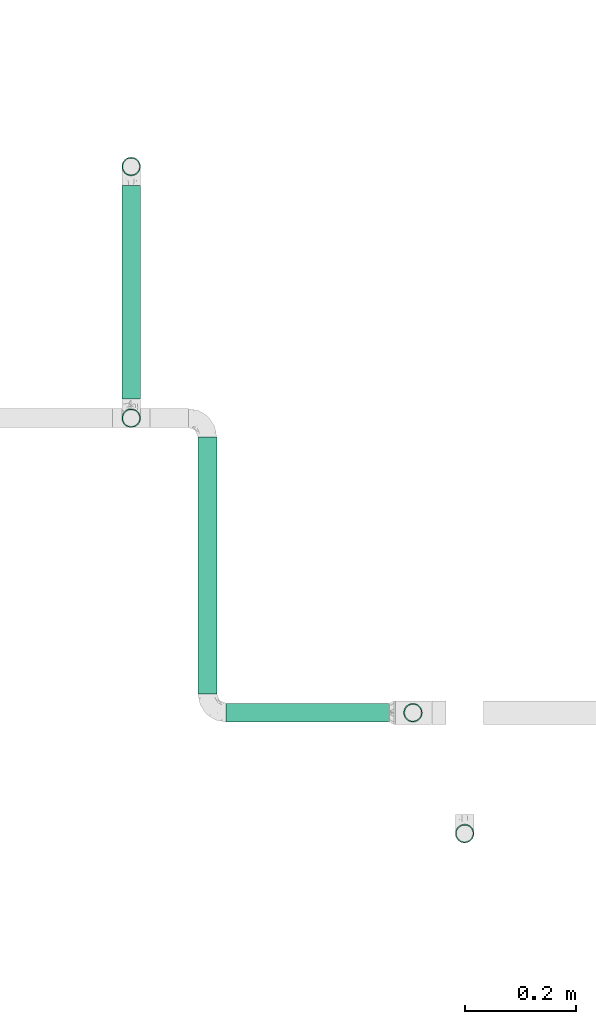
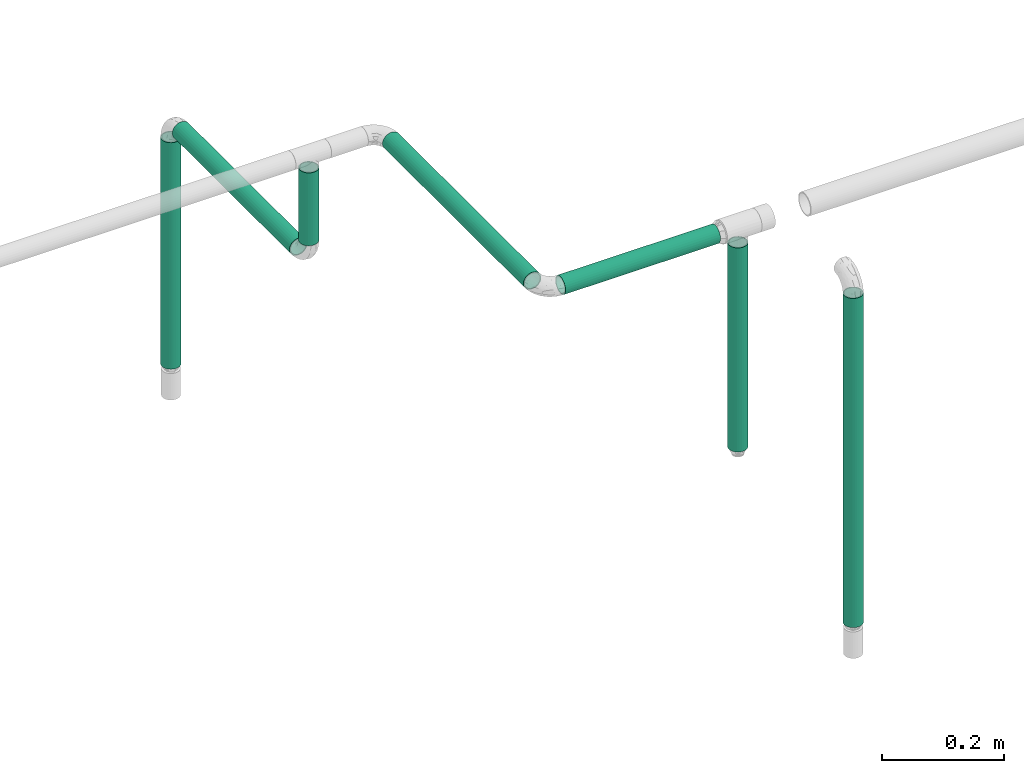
# One storey, part 13 of 94: 7 flow segments.
"""IFC2X3 building model written with IfcOpenShell, lengths in millimetres."""

from ifc_helpers import new_model, entity, si_unit, converted_unit, derived_unit, direction, frame, origin_with_axes, origin_2d_with_axis, place, context, subcontext, project, spatial, hollow_circle, extrude, source, transform, mapped, type_object, element, save


model = new_model("IFC2X3")

# Units and contexts
model_context = context("Model", 3, precision=0.01, world=frame((0.0, 4.29681676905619e-09, 0.0)), true_north=direction((4.01073788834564e-13, 1.0)))
plan_context = context("Plan", 3, precision=0.01, world=frame((0.0, 4.29681676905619e-09, 0.0)), true_north=direction((4.01073788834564e-13, 1.0)))
body_context = subcontext(model_context, "Body", "Model", "MODEL_VIEW")
ifc_project = project(units=[converted_unit("PLANEANGLEUNIT", "DEGREE", entity("IfcPositiveLengthMeasure", 0.0174532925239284), si_unit("PLANEANGLEUNIT", "RADIAN"), dimensions=[0, 0, 0, 0, 0, 0, 0]), si_unit("AREAUNIT", "SQUARE_METRE"), si_unit("LENGTHUNIT", "METRE", prefix="MILLI"), si_unit("MASSUNIT", "GRAM", prefix="KILO"), si_unit("POWERUNIT", "WATT"), si_unit("PRESSUREUNIT", "PASCAL", prefix="KILO"), si_unit("FORCEUNIT", "NEWTON", prefix="KILO"), si_unit("ELECTRICVOLTAGEUNIT", "VOLT"), si_unit("ELECTRICCURRENTUNIT", "AMPERE"), si_unit("THERMODYNAMICTEMPERATUREUNIT", "DEGREE_CELSIUS"), si_unit("TIMEUNIT", "SECOND"), si_unit("VOLUMEUNIT", "CUBIC_METRE"), derived_unit("LINEARVELOCITYUNIT", [(si_unit("LENGTHUNIT", "METRE"), 1), (si_unit("TIMEUNIT", "SECOND"), -1)]), derived_unit("VOLUMETRICFLOWRATEUNIT", [(si_unit("VOLUMEUNIT", "CUBIC_METRE"), 1), (si_unit("TIMEUNIT", "SECOND"), -1)]), derived_unit("THERMALTRANSMITTANCEUNIT", [(si_unit("POWERUNIT", "WATT"), 1), (si_unit("THERMODYNAMICTEMPERATUREUNIT", "KELVIN"), -1), (si_unit("AREAUNIT", "SQUARE_METRE"), -1)]), derived_unit("SOUNDPRESSUREUNIT", [(si_unit("PRESSUREUNIT", "PASCAL"), 1)])], contexts=[model_context, plan_context])

# Site, building, storey
site_placement = place(None, frame((0.0, -4.29681676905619e-09, 0.0), z_axis=(0.0, 0.0, 1.0), x_axis=(1.0, 0.0, 0.0)))
site = spatial("IfcSite", under=ifc_project, at=site_placement, CompositionType="ELEMENT")
building_placement = place(site_placement, frame((0.0, 4.29681676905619e-09, 0.0), z_axis=(0.0, 0.0, 1.0), x_axis=(1.0, 0.0, 0.0)))
building = spatial("IfcBuilding", under=site, at=building_placement, Name="mc-building", CompositionType="ELEMENT")
storey_placement = place(building_placement, frame((0.0, 0.0, 210900.0), z_axis=(0.0, 0.0, 1.0), x_axis=(1.0, 0.0, 0.0)))
storey = spatial("IfcBuildingStorey", under=building, at=storey_placement, Name="Nivå F", CompositionType="ELEMENT", Elevation=210900.0)

# Flow segments
pipe_segment_type = type_object("IfcPipeSegmentType", Name="Stålrør normaltykke", PredefinedType="RIGIDSEGMENT")
shared_shape_1 = source(origin_with_axes(), body_context, "Body", "SweptSolid", [
    extrude(hollow_circle(Radius=16.9, WallThickness=2.0, at=origin_2d_with_axis()), frame((0.0, 0.0, 0.0), z_axis=(1.0, 0.0, 0.0), x_axis=(0.0, 1.0, 0.0)), (0.0, 0.0, 1.0), 384.7),
])
flow_segment_1_placement = place(storey_placement, frame((728000.0, 437366.9, 3294.49074000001), z_axis=(0.0, 0.0, 1.0), x_axis=(0.0, -1.0, 0.0)))
element("IfcFlowSegment", 1, at=flow_segment_1_placement, inside=storey, type_object=pipe_segment_type, Name="Stålrør normaltykke", context=body_context, shape_type="MappedRepresentation", body=[
    mapped(shared_shape_1, transform((0.0, 0.0, 0.0), scale=1.0)),
])
shared_shape_2 = source(origin_with_axes(), body_context, "Body", "SweptSolid", [
    extrude(hollow_circle(Radius=16.9, WallThickness=2.0, at=origin_2d_with_axis()), frame((0.0, 0.0, 0.0), z_axis=(1.0, 0.0, 0.0), x_axis=(0.0, 1.0, 0.0)), (0.0, 0.0, 1.0), 145.9),
])
flow_segment_2_placement = place(storey_placement, frame((728000.0, 436948.06941, 3474.64999999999), z_axis=(0.0, 1.0, 0.0), x_axis=(0.0, 0.0, -1.0)))
element("IfcFlowSegment", 2, at=flow_segment_2_placement, inside=storey, type_object=pipe_segment_type, Name="Stålrør normaltykke", context=body_context, shape_type="MappedRepresentation", body=[
    mapped(shared_shape_2, transform((0.0, 0.0, 0.0), scale=1.0)),
])
shared_shape_3 = source(origin_with_axes(), body_context, "Body", "SweptSolid", [
    extrude(hollow_circle(Radius=16.9, WallThickness=2.0, at=origin_2d_with_axis()), frame((0.0, 0.0, 0.0), z_axis=(1.0, 0.0, 0.0), x_axis=(0.0, 1.0, 0.0)), (0.0, 0.0, 1.0), 293.7),
])
flow_segment_3_placement = place(storey_placement, frame((728464.55728, 436418.06941, 3500.0), z_axis=(0.0, 0.0, 1.0), x_axis=(-1.0, 0.0, 0.0)))
element("IfcFlowSegment", 3, at=flow_segment_3_placement, inside=storey, type_object=pipe_segment_type, Name="Stålrør normaltykke", context=body_context, shape_type="MappedRepresentation", body=[
    mapped(shared_shape_3, transform((0.0, 0.0, 0.0), scale=1.0)),
])
shared_shape_4 = source(origin_with_axes(), body_context, "Body", "SweptSolid", [
    extrude(hollow_circle(Radius=16.9, WallThickness=2.0, at=origin_2d_with_axis()), frame((0.0, 0.0, 0.0), z_axis=(1.0, 0.0, 0.0), x_axis=(0.0, 1.0, 0.0)), (0.0, 0.0, 1.0), 462.4),
])
flow_segment_4_placement = place(storey_placement, frame((728137.10222, 436451.86941, 3500.0), z_axis=(0.0, 0.0, 1.0), x_axis=(0.0, 1.0, 0.0)))
element("IfcFlowSegment", 4, at=flow_segment_4_placement, inside=storey, type_object=pipe_segment_type, Name="Stålrør normaltykke", context=body_context, shape_type="MappedRepresentation", body=[
    mapped(shared_shape_4, transform((0.0, 0.0, 0.0), scale=1.0)),
])
shared_shape_5 = source(origin_with_axes(), body_context, "Body", "SweptSolid", [
    extrude(hollow_circle(Radius=16.9, WallThickness=2.0, at=origin_2d_with_axis()), frame((0.0, 0.0, 0.0), z_axis=(1.0, 0.0, 0.0), x_axis=(0.0, 1.0, 0.0)), (0.0, 0.0, 1.0), 408.8),
])
flow_segment_5_placement = place(storey_placement, frame((728506.95728, 436418.06941, 3468.20000000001), z_axis=(-0.000893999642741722, -0.99999960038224, 0.0), x_axis=(0.0, 0.0, -1.0)))
element("IfcFlowSegment", 5, at=flow_segment_5_placement, inside=storey, type_object=pipe_segment_type, Name="Stålrør normaltykke", context=body_context, shape_type="MappedRepresentation", body=[
    mapped(shared_shape_5, transform((0.0, 0.0, 0.0), scale=1.0)),
])
shared_shape_6 = source(origin_with_axes(), body_context, "Body", "SweptSolid", [
    extrude(hollow_circle(Radius=16.9, WallThickness=2.0, at=origin_2d_with_axis()), frame((0.0, 0.0, 0.0), z_axis=(1.0, 0.0, 0.0), x_axis=(0.0, 1.0, 0.0)), (0.0, 0.0, 1.0), 659.3),
])
flow_segment_6_placement = place(storey_placement, frame((728600.0, 436200.7, 2806.89074), z_axis=(0.0, -1.0, 0.0), x_axis=(0.0, 0.0, 1.0)))
element("IfcFlowSegment", 6, at=flow_segment_6_placement, inside=storey, type_object=pipe_segment_type, Name="Stålrør normaltykke", context=body_context, shape_type="MappedRepresentation", body=[
    mapped(shared_shape_6, transform((0.0, 0.0, 0.0), scale=1.0)),
])
shared_shape_7 = source(origin_with_axes(), body_context, "Body", "SweptSolid", [
    extrude(hollow_circle(Radius=16.9, WallThickness=2.0, at=origin_2d_with_axis()), frame((0.0, 0.0, 0.0), z_axis=(1.0, 0.0, 0.0), x_axis=(0.0, 1.0, 0.0)), (0.0, 0.0, 1.0), 453.8),
])
flow_segment_7_placement = place(storey_placement, frame((728000.0, 437400.7, 2806.89074), z_axis=(1.0, 0.0, 0.0), x_axis=(0.0, 0.0, 1.0)))
element("IfcFlowSegment", 7, at=flow_segment_7_placement, inside=storey, type_object=pipe_segment_type, Name="Stålrør normaltykke", context=body_context, shape_type="MappedRepresentation", body=[
    mapped(shared_shape_7, transform((0.0, 0.0, 0.0), scale=1.0)),
])

save(model, "model.ifc")
